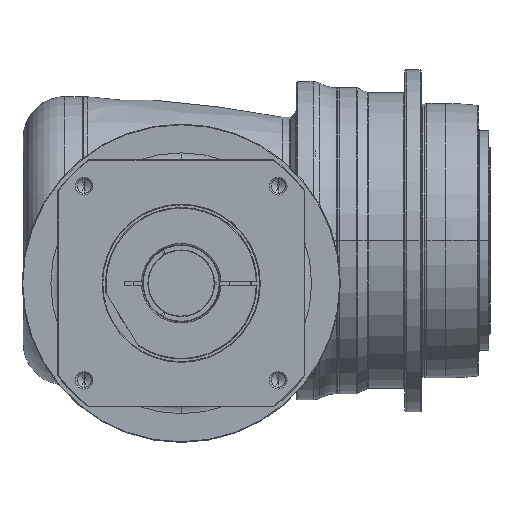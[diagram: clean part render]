
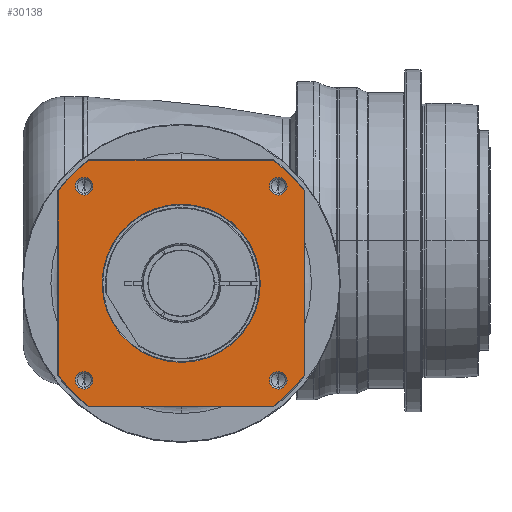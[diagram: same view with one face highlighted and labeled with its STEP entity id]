
A CAD part, front view. The second image highlights one B-rep face of the part: STEP entity #30138.
In plain terms, the highlighted planar face has unit normal (0, -1, 0) as drawn and (0, 0, 1) by its records, which use the part's own axes.
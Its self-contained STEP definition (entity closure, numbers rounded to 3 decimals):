
#28866=DIRECTION('',(1.,0.,0.));
#28867=VECTOR('',#28866,134.666);
#28868=CARTESIAN_POINT('',(-67.333,-89.5,54.));
#28869=LINE('',#28868,#28867);
#28879=CARTESIAN_POINT('',(0.,0.,54.));
#28880=DIRECTION('',(0.,0.,-1.));
#28881=DIRECTION('',(0.,-1.,0.));
#28882=AXIS2_PLACEMENT_3D('',#28879,#28880,#28881);
#28884=CARTESIAN_POINT('',(0.,0.,
54.));
#28885=DIRECTION('',(0.,0.,-1.));
#28886=DIRECTION('',(0.,1.,0.));
#28887=AXIS2_PLACEMENT_3D('',#28884,#28885,#28886);
#28889=CARTESIAN_POINT('',(0.,0.,54.));
#28890=DIRECTION('',(0.,0.,1.));
#28891=DIRECTION('',(-0.799,-0.601,0.));
#28892=AXIS2_PLACEMENT_3D('',#28889,#28890,#28891);
#28904=DIRECTION('',(0.,-1.,0.));
#28905=VECTOR('',#28904,134.666);
#28906=CARTESIAN_POINT('',(-89.5,67.333,54.));
#28907=LINE('',#28906,#28905);
#28917=CARTESIAN_POINT('',(0.,0.,54.));
#28918=DIRECTION('',(0.,0.,1.));
#28919=DIRECTION('',(-0.601,0.799,0.));
#28920=AXIS2_PLACEMENT_3D('',#28917,#28918,#28919);
#28945=DIRECTION('',(-1.,0.,0.));
#28946=VECTOR('',#28945,134.666);
#28947=CARTESIAN_POINT('',(67.333,89.5,54.));
#28948=LINE('',#28947,#28946);
#28953=CARTESIAN_POINT('',(0.,0.,54.));
#28954=DIRECTION('',(0.,0.,1.));
#28955=DIRECTION('',(0.799,0.601,0.));
#28956=AXIS2_PLACEMENT_3D('',#28953,#28954,#28955);
#28968=DIRECTION('',(0.,1.,0.));
#28969=VECTOR('',#28968,134.666);
#28970=CARTESIAN_POINT('',(89.5,-67.333,54.));
#28971=LINE('',#28970,#28969);
#29073=CARTESIAN_POINT('',(0.,0.,54.));
#29074=DIRECTION('',(0.,0.,1.));
#29075=DIRECTION('',(0.601,-0.799,0.));
#29076=AXIS2_PLACEMENT_3D('',#29073,#29074,#29075);
#29355=CARTESIAN_POINT('',(-70.711,70.711,54.));
#29356=DIRECTION('',(0.,0.,1.));
#29357=DIRECTION('',(-1.,0.,0.));
#29358=AXIS2_PLACEMENT_3D('',#29355,#29356,#29357);
#29373=CARTESIAN_POINT('',(-70.711,70.711,54.));
#29374=DIRECTION('',(0.,0.,1.));
#29375=DIRECTION('',(1.,0.,0.));
#29376=AXIS2_PLACEMENT_3D('',#29373,#29374,#29375);
#29409=CARTESIAN_POINT('',(70.711,70.711,54.));
#29410=DIRECTION('',(0.,0.,1.));
#29411=DIRECTION('',(-1.,0.,0.));
#29412=AXIS2_PLACEMENT_3D('',#29409,#29410,#29411);
#29427=CARTESIAN_POINT('',(70.711,70.711,54.));
#29428=DIRECTION('',(0.,0.,1.));
#29429=DIRECTION('',(1.,0.,0.));
#29430=AXIS2_PLACEMENT_3D('',#29427,#29428,#29429);
#29463=CARTESIAN_POINT('',(70.711,-70.711,54.));
#29464=DIRECTION('',(0.,0.,1.));
#29465=DIRECTION('',(-1.,0.,0.));
#29466=AXIS2_PLACEMENT_3D('',#29463,#29464,#29465);
#29481=CARTESIAN_POINT('',(70.711,-70.711,54.));
#29482=DIRECTION('',(0.,0.,1.));
#29483=DIRECTION('',(1.,0.,0.));
#29484=AXIS2_PLACEMENT_3D('',#29481,#29482,#29483);
#29517=CARTESIAN_POINT('',(-70.711,-70.711,54.));
#29518=DIRECTION('',(0.,0.,1.));
#29519=DIRECTION('',(-1.,0.,0.));
#29520=AXIS2_PLACEMENT_3D('',#29517,#29518,#29519);
#29535=CARTESIAN_POINT('',(-70.711,-70.711,54.));
#29536=DIRECTION('',(0.,0.,1.));
#29537=DIRECTION('',(1.,0.,0.));
#29538=AXIS2_PLACEMENT_3D('',#29535,#29536,#29537);
#29579=CARTESIAN_POINT('',(89.5,-67.333,54.));
#29580=CARTESIAN_POINT('',(89.5,67.333,54.));
#29581=VERTEX_POINT('',#29579);
#29582=VERTEX_POINT('',#29580);
#29587=CARTESIAN_POINT('',(67.333,-89.5,54.));
#29588=VERTEX_POINT('',#29587);
#29591=CARTESIAN_POINT('',(-67.333,-89.5,54.));
#29592=VERTEX_POINT('',#29591);
#29595=CARTESIAN_POINT('',(-89.5,-67.333,54.));
#29596=VERTEX_POINT('',#29595);
#29599=CARTESIAN_POINT('',(-89.5,67.333,54.));
#29600=VERTEX_POINT('',#29599);
#29603=CARTESIAN_POINT('',(-67.333,89.5,54.));
#29604=VERTEX_POINT('',#29603);
#29607=CARTESIAN_POINT('',(67.333,89.5,54.));
#29608=VERTEX_POINT('',#29607);
#29657=CARTESIAN_POINT('',(-77.111,70.711,54.));
#29658=CARTESIAN_POINT('',(-64.311,70.711,54.));
#29659=VERTEX_POINT('',#29657);
#29660=VERTEX_POINT('',#29658);
#29691=CARTESIAN_POINT('',(77.111,70.711,54.));
#29692=CARTESIAN_POINT('',(64.311,70.711,54.));
#29693=VERTEX_POINT('',#29691);
#29694=VERTEX_POINT('',#29692);
#29699=CARTESIAN_POINT('',(77.111,-70.711,54.));
#29700=CARTESIAN_POINT('',(64.311,-70.711,54.));
#29701=VERTEX_POINT('',#29699);
#29702=VERTEX_POINT('',#29700);
#29707=CARTESIAN_POINT('',(-64.311,-70.711,54.));
#29708=CARTESIAN_POINT('',(-77.111,-70.711,54.));
#29709=VERTEX_POINT('',#29707);
#29710=VERTEX_POINT('',#29708);
#29715=CARTESIAN_POINT('',(0.,-57.65,54.));
#29716=CARTESIAN_POINT('',(0.,57.65,54.));
#29717=VERTEX_POINT('',#29715);
#29718=VERTEX_POINT('',#29716);
#30086=CARTESIAN_POINT('',(0.,0.,54.));
#30087=DIRECTION('',(0.,0.,1.));
#30088=DIRECTION('',(1.,0.,0.));
#30089=AXIS2_PLACEMENT_3D('',#30086,#30087,#30088);
#30090=PLANE('',#30089);
#30092=ORIENTED_EDGE('',*,*,#30091,.F.);
#30094=ORIENTED_EDGE('',*,*,#30093,.F.);
#30096=ORIENTED_EDGE('',*,*,#30095,.F.);
#30098=ORIENTED_EDGE('',*,*,#30097,.F.);
#30100=ORIENTED_EDGE('',*,*,#30099,.F.);
#30102=ORIENTED_EDGE('',*,*,#30101,.F.);
#30104=ORIENTED_EDGE('',*,*,#30103,.F.);
#30105=ORIENTED_EDGE('',*,*,#30076,.F.);
#30106=EDGE_LOOP('',(#30092,#30094,#30096,#30098,#30100,#30102,#30104,#30105));
#30107=FACE_OUTER_BOUND('',#30106,.F.);
#30109=ORIENTED_EDGE('',*,*,#30108,.F.);
#30111=ORIENTED_EDGE('',*,*,#30110,.F.);
#30112=EDGE_LOOP('',(#30109,#30111));
#30113=FACE_BOUND('',#30112,.F.);
#30115=ORIENTED_EDGE('',*,*,#30114,.T.);
#30117=ORIENTED_EDGE('',*,*,#30116,.T.);
#30118=EDGE_LOOP('',(#30115,#30117));
#30119=FACE_BOUND('',#30118,.F.);
#30121=ORIENTED_EDGE('',*,*,#30120,.T.);
#30123=ORIENTED_EDGE('',*,*,#30122,.T.);
#30124=EDGE_LOOP('',(#30121,#30123));
#30125=FACE_BOUND('',#30124,.F.);
#30127=ORIENTED_EDGE('',*,*,#30126,.T.);
#30129=ORIENTED_EDGE('',*,*,#30128,.T.);
#30130=EDGE_LOOP('',(#30127,#30129));
#30131=FACE_BOUND('',#30130,.F.);
#30133=ORIENTED_EDGE('',*,*,#30132,.T.);
#30135=ORIENTED_EDGE('',*,*,#30134,.T.);
#30136=EDGE_LOOP('',(#30133,#30135));
#30137=FACE_BOUND('',#30136,.F.);
#30138=ADVANCED_FACE('',(#30107,#30113,#30119,#30125,#30131,#30137),#30090,.T.);
#28883=CIRCLE('',#28882,57.65);
#28888=CIRCLE('',#28887,57.65);
#28893=CIRCLE('',#28892,112.);
#28921=CIRCLE('',#28920,112.);
#28957=CIRCLE('',#28956,112.);
#29077=CIRCLE('',#29076,112.);
#29359=CIRCLE('',#29358,6.4);
#29377=CIRCLE('',#29376,6.4);
#29413=CIRCLE('',#29412,6.4);
#29431=CIRCLE('',#29430,6.4);
#29467=CIRCLE('',#29466,6.4);
#29485=CIRCLE('',#29484,6.4);
#29521=CIRCLE('',#29520,6.4);
#29539=CIRCLE('',#29538,6.4);
#30076=EDGE_CURVE('',#29592,#29588,#28869,.T.);
#30091=EDGE_CURVE('',#29596,#29592,#28893,.T.);
#30093=EDGE_CURVE('',#29600,#29596,#28907,.T.);
#30095=EDGE_CURVE('',#29604,#29600,#28921,.T.);
#30097=EDGE_CURVE('',#29608,#29604,#28948,.T.);
#30099=EDGE_CURVE('',#29582,#29608,#28957,.T.);
#30101=EDGE_CURVE('',#29581,#29582,#28971,.T.);
#30103=EDGE_CURVE('',#29588,#29581,#29077,.T.);
#30108=EDGE_CURVE('',#29717,#29718,#28883,.T.);
#30110=EDGE_CURVE('',#29718,#29717,#28888,.T.);
#30114=EDGE_CURVE('',#29659,#29660,#29359,.T.);
#30116=EDGE_CURVE('',#29660,#29659,#29377,.T.);
#30120=EDGE_CURVE('',#29694,#29693,#29413,.T.);
#30122=EDGE_CURVE('',#29693,#29694,#29431,.T.);
#30126=EDGE_CURVE('',#29702,#29701,#29467,.T.);
#30128=EDGE_CURVE('',#29701,#29702,#29485,.T.);
#30132=EDGE_CURVE('',#29710,#29709,#29521,.T.);
#30134=EDGE_CURVE('',#29709,#29710,#29539,.T.);
